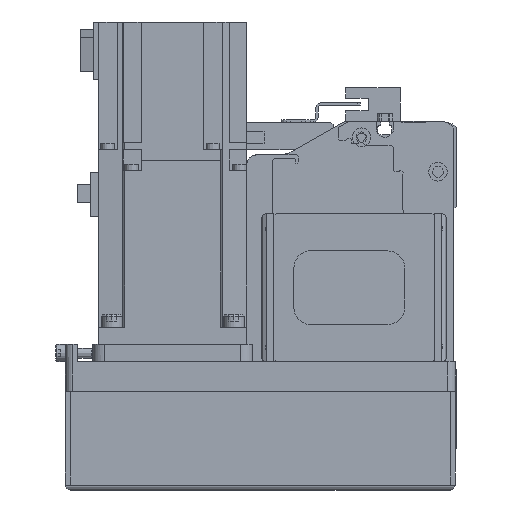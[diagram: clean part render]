
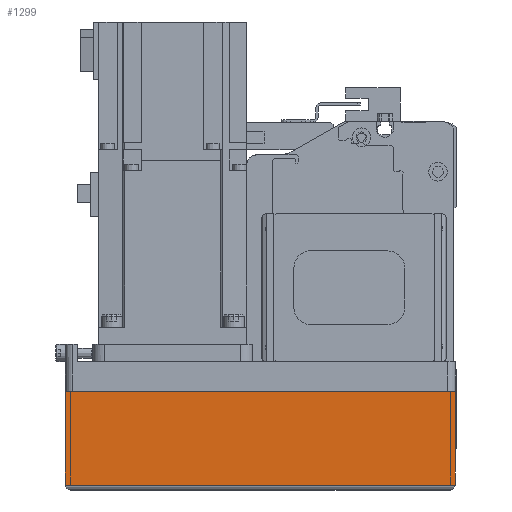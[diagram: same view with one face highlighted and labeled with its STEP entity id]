
A CAD part, left-side view. The second image highlights one B-rep face of the part: STEP entity #1299.
In plain terms, the highlighted planar face has unit normal (-1, 0, 0) as drawn and (0, -1, 0) by its records, which use the part's own axes.
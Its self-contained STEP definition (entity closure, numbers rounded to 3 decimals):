
#1299 = ADVANCED_FACE( '', ( #3634 ), #3635, .T. );
#3634 = FACE_OUTER_BOUND( '', #7448, .T. );
#3635 = PLANE( '', #7449 );
#7448 = EDGE_LOOP( '', ( #11257, #11258, #11259, #11260 ) );
#7449 = AXIS2_PLACEMENT_3D( '', #11261, #11262, #11263 );
#11257 = ORIENTED_EDGE( '', *, *, #21214, .F. );
#11258 = ORIENTED_EDGE( '', *, *, #21215, .F. );
#11259 = ORIENTED_EDGE( '', *, *, #21216, .T. );
#11260 = ORIENTED_EDGE( '', *, *, #21217, .T. );
#11261 = CARTESIAN_POINT( '', ( -158., -39., -12.1 ) );
#11262 = DIRECTION( '', ( 0., -1., 0. ) );
#11263 = DIRECTION( '', ( 0., 0., -1. ) );
#21214 = EDGE_CURVE( '', #25066, #25067, #25068, .T. );
#21215 = EDGE_CURVE( '', #25069, #25066, #25070, .T. );
#21216 = EDGE_CURVE( '', #25069, #25071, #25072, .T. );
#21217 = EDGE_CURVE( '', #25071, #25067, #25073, .T. );
#25066 = VERTEX_POINT( '', #30812 );
#25067 = VERTEX_POINT( '', #30813 );
#25068 = LINE( '', #30814, #30815 );
#25069 = VERTEX_POINT( '', #30816 );
#25070 = LINE( '', #30817, #30818 );
#25071 = VERTEX_POINT( '', #30819 );
#25072 = LINE( '', #30820, #30821 );
#25073 = LINE( '', #30822, #30823 );
#30812 = CARTESIAN_POINT( '', ( 0., -39., -12.1 ) );
#30813 = CARTESIAN_POINT( '', ( 0., -39., -50. ) );
#30814 = CARTESIAN_POINT( '', ( 0., -39., -12.1 ) );
#30815 = VECTOR( '', #39901, 1000. );
#30816 = CARTESIAN_POINT( '', ( -158., -39., -12.1 ) );
#30817 = CARTESIAN_POINT( '', ( -158., -39., -12.1 ) );
#30818 = VECTOR( '', #39902, 1000. );
#30819 = CARTESIAN_POINT( '', ( -158., -39., -50. ) );
#30820 = CARTESIAN_POINT( '', ( -158., -39., -12.1 ) );
#30821 = VECTOR( '', #39903, 1000. );
#30822 = CARTESIAN_POINT( '', ( -158., -39., -50. ) );
#30823 = VECTOR( '', #39904, 1000. );
#39901 = DIRECTION( '', ( 0., 0., -1. ) );
#39902 = DIRECTION( '', ( 1., 0., 0. ) );
#39903 = DIRECTION( '', ( 0., 0., -1. ) );
#39904 = DIRECTION( '', ( 1., 0., 0. ) );
